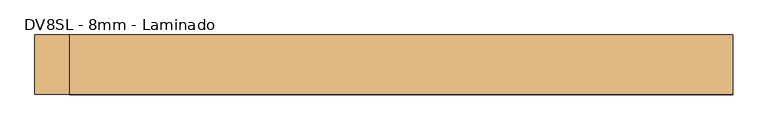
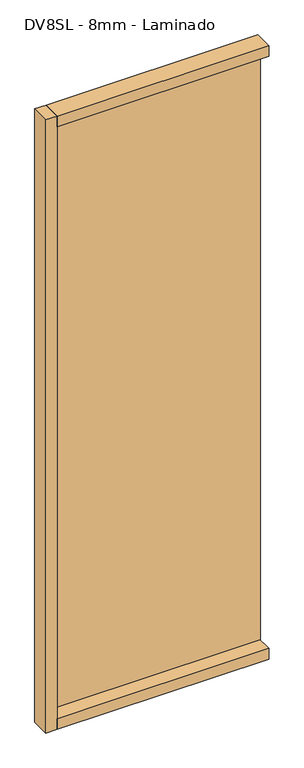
"""IFC4 building model written with IfcOpenShell, lengths in millimetres: door geometry, Mobiliário_Mobiliário de Escritório_Painel Vidro Simples - DVST e DVSL (Inicial ou Final)_Marelli : DV8SL - 8mm - Laminado."""

from ifc_helpers import new_model, si_unit, frame, origin, origin_with_axes, place, context, project, spatial, polyline, outline, extrude, source, transform, mapped, element, save


def dv8sl_8mm_laminado_ff16c796(model_context):
    return source(origin(), model_context, "Body", "SweptSolid", [
        extrude(outline(polyline([(500.0, 42.5), (500.0, -42.5), (-450.0, -42.5), (-450.0, 42.5), (500.0, 42.5)])), origin_with_axes(), (0.0, 0.0, 1.0), 50.0),
        extrude(outline(polyline([(500.0, 42.5), (500.0, -42.5), (-450.0, -42.5), (-450.0, 42.5), (500.0, 42.5)])), frame((0.0, 0.0, 2850.0), z_axis=(0.0, 0.0, 1.0), x_axis=(1.0, 0.0, 0.0)), (0.0, 0.0, 1.0), 50.0),
        extrude(outline(polyline([(-500.0, -42.5), (-500.0, 42.5), (-450.0, 42.5), (-450.0, -42.5), (-500.0, -42.5)])), origin_with_axes(), (0.0, 0.0, 1.0), 2900.0),
        extrude(outline(polyline([(500.0, 33.1), (500.0, 25.1), (-450.0, 25.1), (-450.0, 33.1), (500.0, 33.1)])), frame((0.0, 0.0, 50.0), z_axis=(0.0, 0.0, 1.0), x_axis=(1.0, 0.0, 0.0)), (0.0, 0.0, 1.0), 2800.0),
    ])


if __name__ == "__main__":
    model = new_model("IFC4")
    model_context = context("Model", 3, world=origin())
    ifc_project = project(units=[si_unit("LENGTHUNIT", "METRE", prefix="MILLI")], contexts=[model_context])
    site = spatial("IfcSite", under=ifc_project)
    building = spatial("IfcBuilding", under=site)
    placement = place(None, origin())
    dv8sl_8mm_laminado_shape = dv8sl_8mm_laminado_ff16c796(model_context)
    element("IfcDoor", 1, ObjectType="Mobiliário_Mobiliário de Escritório_Painel Vidro Simples - DVST e DVSL (Inicial ou Final)_Marelli : DV8SL - 8mm - Laminado", at=placement, inside=building, context=model_context, shape_type="MappedRepresentation", body=[
        mapped(dv8sl_8mm_laminado_shape, transform((0.0, 0.0, 0.0), x_axis=(1.0, 0.0, 0.0), y_axis=(0.0, 1.0, 0.0), z_axis=(0.0, 0.0, 1.0))),
    ])
    save(model, "model.ifc")
